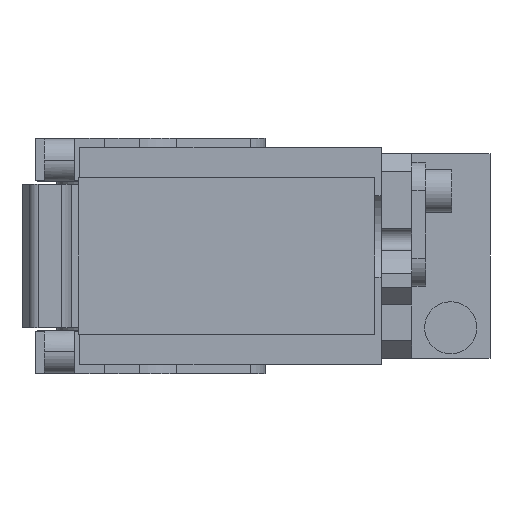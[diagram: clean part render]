
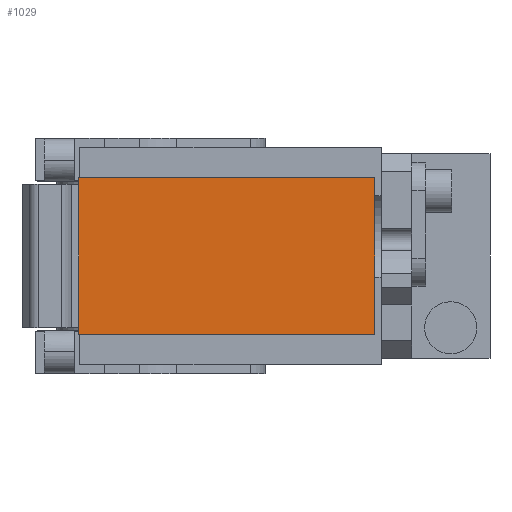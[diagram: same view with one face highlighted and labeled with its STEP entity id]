
A CAD part, front view. The second image highlights one B-rep face of the part: STEP entity #1029.
In plain terms, the highlighted planar face has unit normal (0, -1, 0).
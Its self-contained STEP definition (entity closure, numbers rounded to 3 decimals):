
#750 = CARTESIAN_POINT ( 'NONE',  ( 62., -233., -18. ) ) ;
#760 = CARTESIAN_POINT ( 'NONE',  ( 62., -233., 18. ) ) ;
#1029 = ADVANCED_FACE ( 'NONE', ( #12325 ), #5288, .T. ) ;
#1287 = CARTESIAN_POINT ( 'NONE',  ( -6., -233., 18. ) ) ;
#1642 = LINE ( 'NONE', #3999, #12717 ) ;
#1656 = DIRECTION ( 'NONE',  ( 0., 0., 1. ) ) ;
#2567 = VECTOR ( 'NONE', #3357, 1000. ) ;
#2799 = ORIENTED_EDGE ( 'NONE', *, *, #7643, .T. ) ;
#3012 = DIRECTION ( 'NONE',  ( 1., 0., 0. ) ) ;
#3357 = DIRECTION ( 'NONE',  ( 0., 0., -1. ) ) ;
#3792 = VERTEX_POINT ( 'NONE', #10225 ) ;
#3999 = CARTESIAN_POINT ( 'NONE',  ( -6., -233., -18. ) ) ;
#5288 = PLANE ( 'NONE',  #9399 ) ;
#5512 = VECTOR ( 'NONE', #1656, 1000. ) ;
#5580 = DIRECTION ( 'NONE',  ( 0., 0., -1. ) ) ;
#5961 = DIRECTION ( 'NONE',  ( -1., 0., 0. ) ) ;
#7254 = CARTESIAN_POINT ( 'NONE',  ( 62., -233., 18. ) ) ;
#7571 = EDGE_CURVE ( 'NONE', #8099, #3792, #8053, .T. ) ;
#7643 = EDGE_CURVE ( 'NONE', #10404, #12719, #14539, .T. ) ;
#8053 = LINE ( 'NONE', #13871, #2567 ) ;
#8099 = VERTEX_POINT ( 'NONE', #13486 ) ;
#8503 = ORIENTED_EDGE ( 'NONE', *, *, #14067, .T. ) ;
#9399 = AXIS2_PLACEMENT_3D ( 'NONE', #14938, #12700, #5580 ) ;
#9588 = VECTOR ( 'NONE', #5961, 1000. ) ;
#10225 = CARTESIAN_POINT ( 'NONE',  ( -6., -233., -18. ) ) ;
#10404 = VERTEX_POINT ( 'NONE', #750 ) ;
#10549 = EDGE_LOOP ( 'NONE', ( #12374, #12684, #2799, #8503 ) ) ;
#10639 = EDGE_CURVE ( 'NONE', #3792, #10404, #1642, .T. ) ;
#11766 = LINE ( 'NONE', #1287, #9588 ) ;
#12325 = FACE_OUTER_BOUND ( 'NONE', #10549, .T. ) ;
#12374 = ORIENTED_EDGE ( 'NONE', *, *, #7571, .T. ) ;
#12684 = ORIENTED_EDGE ( 'NONE', *, *, #10639, .T. ) ;
#12700 = DIRECTION ( 'NONE',  ( 0., -1., 0. ) ) ;
#12717 = VECTOR ( 'NONE', #3012, 1000. ) ;
#12719 = VERTEX_POINT ( 'NONE', #760 ) ;
#13486 = CARTESIAN_POINT ( 'NONE',  ( -6., -233., 18. ) ) ;
#13871 = CARTESIAN_POINT ( 'NONE',  ( -6., -233., 18. ) ) ;
#14067 = EDGE_CURVE ( 'NONE', #12719, #8099, #11766, .T. ) ;
#14539 = LINE ( 'NONE', #7254, #5512 ) ;
#14938 = CARTESIAN_POINT ( 'NONE',  ( 0., -233., 0. ) ) ;
